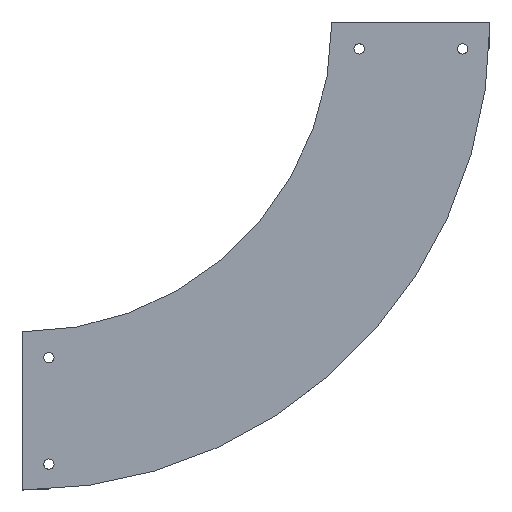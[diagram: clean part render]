
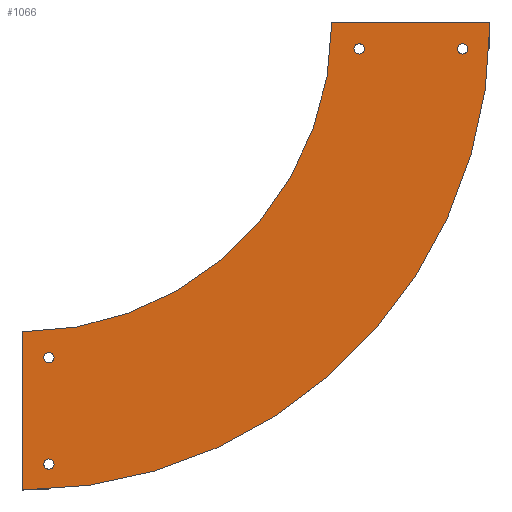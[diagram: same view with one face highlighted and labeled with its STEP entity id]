
A CAD part, top view. The second image highlights one B-rep face of the part: STEP entity #1066.
In plain terms, the highlighted planar face has unit normal (0, 0, 1).
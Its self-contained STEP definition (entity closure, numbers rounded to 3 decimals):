
#49=FACE_BOUND('',#205,.T.);
#50=FACE_BOUND('',#206,.T.);
#51=FACE_BOUND('',#207,.T.);
#52=FACE_BOUND('',#208,.T.);
#63=CIRCLE('',#1156,298.5);
#64=CIRCLE('',#1157,451.5);
#65=CIRCLE('',#1158,5.);
#66=CIRCLE('',#1159,5.);
#67=CIRCLE('',#1160,5.);
#68=CIRCLE('',#1161,5.);
#69=CIRCLE('',#1162,5.);
#70=CIRCLE('',#1163,5.);
#71=CIRCLE('',#1164,5.);
#72=CIRCLE('',#1165,5.);
#134=FACE_OUTER_BOUND('',#204,.T.);
#204=EDGE_LOOP('',(#826,#827,#828,#829,#830,#831,#832,#833));
#205=EDGE_LOOP('',(#834,#835));
#206=EDGE_LOOP('',(#836,#837));
#207=EDGE_LOOP('',(#838,#839));
#208=EDGE_LOOP('',(#840,#841));
#297=LINE('',#1670,#405);
#298=LINE('',#1673,#406);
#306=LINE('',#1708,#414);
#307=LINE('',#1713,#415);
#308=LINE('',#1715,#416);
#309=LINE('',#1717,#417);
#405=VECTOR('',#1333,304.8);
#406=VECTOR('',#1336,304.8);
#414=VECTOR('',#1368,304.8);
#415=VECTOR('',#1373,304.8);
#416=VECTOR('',#1374,304.8);
#417=VECTOR('',#1375,304.8);
#494=VERTEX_POINT('',#1663);
#497=VERTEX_POINT('',#1668);
#498=VERTEX_POINT('',#1672);
#513=VERTEX_POINT('',#1706);
#514=VERTEX_POINT('',#1710);
#515=VERTEX_POINT('',#1712);
#516=VERTEX_POINT('',#1714);
#517=VERTEX_POINT('',#1716);
#518=VERTEX_POINT('',#1719);
#519=VERTEX_POINT('',#1720);
#520=VERTEX_POINT('',#1723);
#521=VERTEX_POINT('',#1724);
#522=VERTEX_POINT('',#1727);
#523=VERTEX_POINT('',#1728);
#524=VERTEX_POINT('',#1731);
#525=VERTEX_POINT('',#1732);
#609=EDGE_CURVE('',#497,#494,#297,.T.);
#610=EDGE_CURVE('',#494,#498,#298,.T.);
#628=EDGE_CURVE('',#513,#497,#306,.T.);
#629=EDGE_CURVE('',#513,#514,#63,.T.);
#630=EDGE_CURVE('',#514,#515,#307,.T.);
#631=EDGE_CURVE('',#515,#516,#308,.T.);
#632=EDGE_CURVE('',#516,#517,#309,.T.);
#633=EDGE_CURVE('',#517,#498,#64,.T.);
#634=EDGE_CURVE('',#518,#519,#65,.T.);
#635=EDGE_CURVE('',#519,#518,#66,.T.);
#636=EDGE_CURVE('',#520,#521,#67,.T.);
#637=EDGE_CURVE('',#521,#520,#68,.T.);
#638=EDGE_CURVE('',#522,#523,#69,.T.);
#639=EDGE_CURVE('',#523,#522,#70,.T.);
#640=EDGE_CURVE('',#524,#525,#71,.T.);
#641=EDGE_CURVE('',#525,#524,#72,.T.);
#826=ORIENTED_EDGE('',*,*,#609,.F.);
#827=ORIENTED_EDGE('',*,*,#628,.F.);
#828=ORIENTED_EDGE('',*,*,#629,.T.);
#829=ORIENTED_EDGE('',*,*,#630,.T.);
#830=ORIENTED_EDGE('',*,*,#631,.T.);
#831=ORIENTED_EDGE('',*,*,#632,.T.);
#832=ORIENTED_EDGE('',*,*,#633,.T.);
#833=ORIENTED_EDGE('',*,*,#610,.F.);
#834=ORIENTED_EDGE('',*,*,#634,.T.);
#835=ORIENTED_EDGE('',*,*,#635,.T.);
#836=ORIENTED_EDGE('',*,*,#636,.T.);
#837=ORIENTED_EDGE('',*,*,#637,.T.);
#838=ORIENTED_EDGE('',*,*,#638,.T.);
#839=ORIENTED_EDGE('',*,*,#639,.T.);
#840=ORIENTED_EDGE('',*,*,#640,.T.);
#841=ORIENTED_EDGE('',*,*,#641,.T.);
#1018=PLANE('',#1155);
#1066=ADVANCED_FACE('',(#134,#49,#50,#51,#52),#1018,.T.);
#1155=AXIS2_PLACEMENT_3D('',#1709,#1369,#1370);
#1156=AXIS2_PLACEMENT_3D('',#1711,#1371,#1372);
#1157=AXIS2_PLACEMENT_3D('',#1718,#1376,#1377);
#1158=AXIS2_PLACEMENT_3D('',#1721,#1378,#1379);
#1159=AXIS2_PLACEMENT_3D('',#1722,#1380,#1381);
#1160=AXIS2_PLACEMENT_3D('',#1725,#1382,#1383);
#1161=AXIS2_PLACEMENT_3D('',#1726,#1384,#1385);
#1162=AXIS2_PLACEMENT_3D('',#1729,#1386,#1387);
#1163=AXIS2_PLACEMENT_3D('',#1730,#1388,#1389);
#1164=AXIS2_PLACEMENT_3D('',#1733,#1390,#1391);
#1165=AXIS2_PLACEMENT_3D('',#1734,#1392,#1393);
#1333=DIRECTION('',(1.,0.,0.));
#1336=DIRECTION('',(0.,-1.,0.));
#1368=DIRECTION('',(0.,1.,0.));
#1369=DIRECTION('center_axis',(0.,0.,1.));
#1370=DIRECTION('ref_axis',(0.,-1.,0.));
#1371=DIRECTION('center_axis',(0.,0.,-1.));
#1372=DIRECTION('ref_axis',(1.,0.,0.));
#1373=DIRECTION('',(-1.,0.,0.));
#1374=DIRECTION('',(0.,-1.,0.));
#1375=DIRECTION('',(1.,0.,0.));
#1376=DIRECTION('center_axis',(0.,0.,1.));
#1377=DIRECTION('ref_axis',(1.,0.,0.));
#1378=DIRECTION('center_axis',(0.,0.,-1.));
#1379=DIRECTION('ref_axis',(1.,0.,0.));
#1380=DIRECTION('center_axis',(0.,0.,-1.));
#1381=DIRECTION('ref_axis',(1.,0.,0.));
#1382=DIRECTION('center_axis',(0.,0.,-1.));
#1383=DIRECTION('ref_axis',(1.,0.,0.));
#1384=DIRECTION('center_axis',(0.,0.,-1.));
#1385=DIRECTION('ref_axis',(1.,0.,0.));
#1386=DIRECTION('center_axis',(0.,0.,-1.));
#1387=DIRECTION('ref_axis',(1.,0.,0.));
#1388=DIRECTION('center_axis',(0.,0.,-1.));
#1389=DIRECTION('ref_axis',(1.,0.,0.));
#1390=DIRECTION('center_axis',(0.,0.,-1.));
#1391=DIRECTION('ref_axis',(1.,0.,0.));
#1392=DIRECTION('center_axis',(0.,0.,-1.));
#1393=DIRECTION('ref_axis',(1.,0.,0.));
#1663=CARTESIAN_POINT('',(76.5,376.,1.5));
#1668=CARTESIAN_POINT('',(-76.5,376.,1.5));
#1670=CARTESIAN_POINT('',(-76.5,376.,1.5));
#1672=CARTESIAN_POINT('',(76.5,375.,1.5));
#1673=CARTESIAN_POINT('',(76.5,376.,1.5));
#1706=CARTESIAN_POINT('',(-76.5,375.,1.5));
#1708=CARTESIAN_POINT('',(-76.5,376.,1.5));
#1709=CARTESIAN_POINT('Origin',(-76.5,376.,1.5));
#1710=CARTESIAN_POINT('',(-375.,76.5,1.5));
#1711=CARTESIAN_POINT('Origin',(-375.,375.,1.5));
#1712=CARTESIAN_POINT('',(-376.,76.5,1.5));
#1713=CARTESIAN_POINT('',(-375.,76.5,1.5));
#1714=CARTESIAN_POINT('',(-376.,-76.5,1.5));
#1715=CARTESIAN_POINT('',(-376.,-76.5,1.5));
#1716=CARTESIAN_POINT('',(-375.,-76.5,1.5));
#1717=CARTESIAN_POINT('',(-375.,-76.5,1.5));
#1718=CARTESIAN_POINT('Origin',(-375.,375.,1.5));
#1719=CARTESIAN_POINT('',(-345.,51.5,1.5));
#1720=CARTESIAN_POINT('',(-355.,51.5,1.5));
#1721=CARTESIAN_POINT('Origin',(-350.,51.5,1.5));
#1722=CARTESIAN_POINT('Origin',(-350.,51.5,1.5));
#1723=CARTESIAN_POINT('',(-345.,-51.5,1.5));
#1724=CARTESIAN_POINT('',(-355.,-51.5,1.5));
#1725=CARTESIAN_POINT('Origin',(-350.,-51.5,1.5));
#1726=CARTESIAN_POINT('Origin',(-350.,-51.5,1.5));
#1727=CARTESIAN_POINT('',(-45.,350.,1.5));
#1728=CARTESIAN_POINT('',(-55.,350.,1.5));
#1729=CARTESIAN_POINT('Origin',(-50.,350.,1.5));
#1730=CARTESIAN_POINT('Origin',(-50.,350.,1.5));
#1731=CARTESIAN_POINT('',(55.,350.,1.5));
#1732=CARTESIAN_POINT('',(45.,350.,1.5));
#1733=CARTESIAN_POINT('Origin',(50.,350.,1.5));
#1734=CARTESIAN_POINT('Origin',(50.,350.,1.5));
